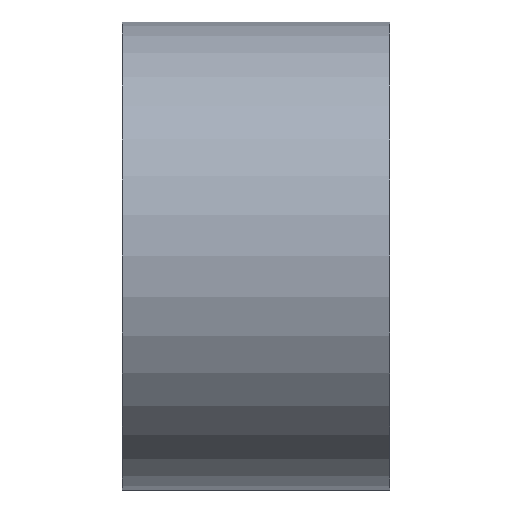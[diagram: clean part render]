
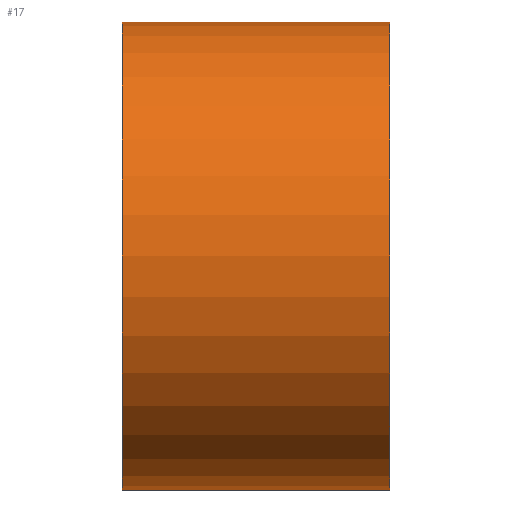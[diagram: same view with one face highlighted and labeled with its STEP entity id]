
A CAD part, front view. The second image highlights one B-rep face of the part: STEP entity #17.
In plain terms, the highlighted cylindrical face has radius 3.5 mm (diameter 7 mm), a full revolution.
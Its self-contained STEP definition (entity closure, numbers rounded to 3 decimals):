
#17 = ADVANCED_FACE('',(#18),#31,.T.);
#18 = FACE_BOUND('',#19,.T.);
#19 = EDGE_LOOP('',(#20,#54,#76,#103));
#20 = ORIENTED_EDGE('',*,*,#21,.F.);
#21 = EDGE_CURVE('',#22,#22,#24,.T.);
#22 = VERTEX_POINT('',#23);
#23 = CARTESIAN_POINT('',(-42.,28.,241.));
#24 = SURFACE_CURVE('',#25,(#30,#42),.PCURVE_S1.);
#25 = CIRCLE('',#26,3.5);
#26 = AXIS2_PLACEMENT_3D('',#27,#28,#29);
#27 = CARTESIAN_POINT('',(-42.,28.,244.5));
#28 = DIRECTION('',(1.,-0.,0.));
#29 = DIRECTION('',(0.,0.,-1.));
#30 = PCURVE('',#31,#36);
#31 = CYLINDRICAL_SURFACE('',#32,3.5);
#32 = AXIS2_PLACEMENT_3D('',#33,#34,#35);
#33 = CARTESIAN_POINT('',(-46.,28.,244.5));
#34 = DIRECTION('',(1.,0.,0.));
#35 = DIRECTION('',(0.,0.,1.));
#36 = DEFINITIONAL_REPRESENTATION('',(#37),#41);
#37 = LINE('',#38,#39);
#38 = CARTESIAN_POINT('',(3.142,4.));
#39 = VECTOR('',#40,1.);
#40 = DIRECTION('',(1.,0.));
#41 = ( GEOMETRIC_REPRESENTATION_CONTEXT(2) 
PARAMETRIC_REPRESENTATION_CONTEXT() REPRESENTATION_CONTEXT('2D SPACE',''
  ) );
#42 = PCURVE('',#43,#48);
#43 = PLANE('',#44);
#44 = AXIS2_PLACEMENT_3D('',#45,#46,#47);
#45 = CARTESIAN_POINT('',(-42.,28.,244.5));
#46 = DIRECTION('',(1.,0.,0.));
#47 = DIRECTION('',(0.,0.,1.));
#48 = DEFINITIONAL_REPRESENTATION('',(#49),#53);
#49 = CIRCLE('',#50,3.5);
#50 = AXIS2_PLACEMENT_2D('',#51,#52);
#51 = CARTESIAN_POINT('',(0.,0.));
#52 = DIRECTION('',(-1.,0.));
#53 = ( GEOMETRIC_REPRESENTATION_CONTEXT(2) 
PARAMETRIC_REPRESENTATION_CONTEXT() REPRESENTATION_CONTEXT('2D SPACE',''
  ) );
#54 = ORIENTED_EDGE('',*,*,#55,.F.);
#55 = EDGE_CURVE('',#56,#22,#58,.T.);
#56 = VERTEX_POINT('',#57);
#57 = CARTESIAN_POINT('',(-46.,28.,241.));
#58 = SEAM_CURVE('',#59,(#62,#69),.PCURVE_S1.);
#59 = B_SPLINE_CURVE_WITH_KNOTS('',1,(#60,#61),.UNSPECIFIED.,.F.,.F.,(2,
    2),(0.,4.),.PIECEWISE_BEZIER_KNOTS.);
#60 = CARTESIAN_POINT('',(-46.,28.,241.));
#61 = CARTESIAN_POINT('',(-42.,28.,241.));
#62 = PCURVE('',#31,#63);
#63 = DEFINITIONAL_REPRESENTATION('',(#64),#68);
#64 = LINE('',#65,#66);
#65 = CARTESIAN_POINT('',(3.142,0.));
#66 = VECTOR('',#67,1.);
#67 = DIRECTION('',(0.,1.));
#68 = ( GEOMETRIC_REPRESENTATION_CONTEXT(2) 
PARAMETRIC_REPRESENTATION_CONTEXT() REPRESENTATION_CONTEXT('2D SPACE',''
  ) );
#69 = PCURVE('',#31,#70);
#70 = DEFINITIONAL_REPRESENTATION('',(#71),#75);
#71 = LINE('',#72,#73);
#72 = CARTESIAN_POINT('',(9.425,0.));
#73 = VECTOR('',#74,1.);
#74 = DIRECTION('',(0.,1.));
#75 = ( GEOMETRIC_REPRESENTATION_CONTEXT(2) 
PARAMETRIC_REPRESENTATION_CONTEXT() REPRESENTATION_CONTEXT('2D SPACE',''
  ) );
#76 = ORIENTED_EDGE('',*,*,#77,.T.);
#77 = EDGE_CURVE('',#56,#56,#78,.T.);
#78 = SURFACE_CURVE('',#79,(#84,#91),.PCURVE_S1.);
#79 = CIRCLE('',#80,3.5);
#80 = AXIS2_PLACEMENT_3D('',#81,#82,#83);
#81 = CARTESIAN_POINT('',(-46.,28.,244.5));
#82 = DIRECTION('',(1.,-0.,0.));
#83 = DIRECTION('',(0.,0.,-1.));
#84 = PCURVE('',#31,#85);
#85 = DEFINITIONAL_REPRESENTATION('',(#86),#90);
#86 = LINE('',#87,#88);
#87 = CARTESIAN_POINT('',(3.142,0.));
#88 = VECTOR('',#89,1.);
#89 = DIRECTION('',(1.,0.));
#90 = ( GEOMETRIC_REPRESENTATION_CONTEXT(2) 
PARAMETRIC_REPRESENTATION_CONTEXT() REPRESENTATION_CONTEXT('2D SPACE',''
  ) );
#91 = PCURVE('',#92,#97);
#92 = PLANE('',#93);
#93 = AXIS2_PLACEMENT_3D('',#94,#95,#96);
#94 = CARTESIAN_POINT('',(-46.,28.,244.5));
#95 = DIRECTION('',(1.,0.,0.));
#96 = DIRECTION('',(0.,0.,1.));
#97 = DEFINITIONAL_REPRESENTATION('',(#98),#102);
#98 = CIRCLE('',#99,3.5);
#99 = AXIS2_PLACEMENT_2D('',#100,#101);
#100 = CARTESIAN_POINT('',(0.,0.));
#101 = DIRECTION('',(-1.,0.));
#102 = ( GEOMETRIC_REPRESENTATION_CONTEXT(2) 
PARAMETRIC_REPRESENTATION_CONTEXT() REPRESENTATION_CONTEXT('2D SPACE',''
  ) );
#103 = ORIENTED_EDGE('',*,*,#55,.T.);
